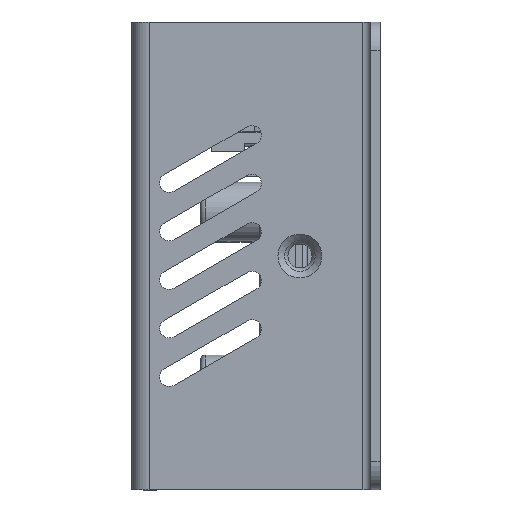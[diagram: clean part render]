
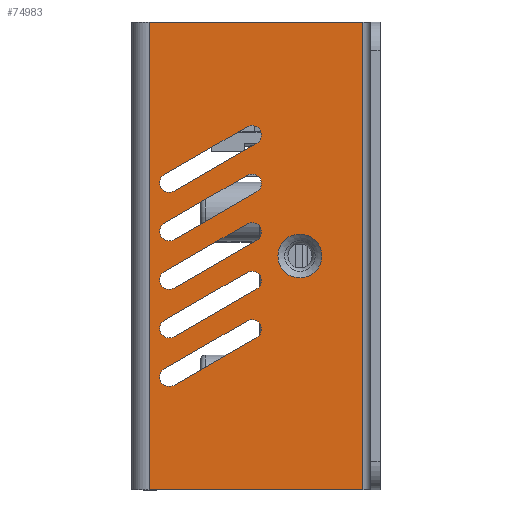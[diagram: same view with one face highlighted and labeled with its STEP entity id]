
A CAD part, left-side view. The second image highlights one B-rep face of the part: STEP entity #74983.
In plain terms, the highlighted planar face has unit normal (-1, 0, 0).
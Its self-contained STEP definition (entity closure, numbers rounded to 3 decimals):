
#3030=FACE_BOUND('',#16309,.T.);
#3031=FACE_BOUND('',#16310,.T.);
#3032=FACE_BOUND('',#16311,.T.);
#3033=FACE_BOUND('',#16312,.T.);
#3034=FACE_BOUND('',#16313,.T.);
#3035=FACE_BOUND('',#16314,.T.);
#5498=PLANE('',#81935);
#12096=FACE_OUTER_BOUND('',#16308,.T.);
#16308=EDGE_LOOP('',(#70807,#70808,#70809,#70810));
#16309=EDGE_LOOP('',(#70811,#70812,#70813,#70814));
#16310=EDGE_LOOP('',(#70815,#70816,#70817,#70818));
#16311=EDGE_LOOP('',(#70819,#70820,#70821,#70822));
#16312=EDGE_LOOP('',(#70823,#70824,#70825,#70826));
#16313=EDGE_LOOP('',(#70827,#70828,#70829,#70830));
#16314=EDGE_LOOP('',(#70831));
#23910=LINE('',#137598,#31512);
#23916=LINE('',#137610,#31518);
#23917=LINE('',#137612,#31519);
#23918=LINE('',#137613,#31520);
#23919=LINE('',#137615,#31521);
#23920=LINE('',#137618,#31522);
#23921=LINE('',#137620,#31523);
#23922=LINE('',#137623,#31524);
#23923=LINE('',#137625,#31525);
#23924=LINE('',#137628,#31526);
#23925=LINE('',#137630,#31527);
#23926=LINE('',#137633,#31528);
#23927=LINE('',#137635,#31529);
#23928=LINE('',#137638,#31530);
#31512=VECTOR('',#101764,1000.);
#31518=VECTOR('',#101772,1000.);
#31519=VECTOR('',#101775,1000.);
#31520=VECTOR('',#101776,1000.);
#31521=VECTOR('',#101777,1000.);
#31522=VECTOR('',#101780,1000.);
#31523=VECTOR('',#101781,1000.);
#31524=VECTOR('',#101784,1000.);
#31525=VECTOR('',#101785,1000.);
#31526=VECTOR('',#101788,1000.);
#31527=VECTOR('',#101789,1000.);
#31528=VECTOR('',#101792,1000.);
#31529=VECTOR('',#101793,1000.);
#31530=VECTOR('',#101796,1000.);
#33442=CIRCLE('',#81877,1.);
#33444=CIRCLE('',#81880,1.);
#33446=CIRCLE('',#81883,1.);
#33448=CIRCLE('',#81886,1.);
#33450=CIRCLE('',#81889,1.);
#33456=CIRCLE('',#81898,2.3);
#33478=CIRCLE('',#81936,1.);
#33479=CIRCLE('',#81937,1.);
#33480=CIRCLE('',#81938,1.);
#33481=CIRCLE('',#81939,1.);
#33482=CIRCLE('',#81940,1.);
#40141=VERTEX_POINT('',#137378);
#40142=VERTEX_POINT('',#137379);
#40145=VERTEX_POINT('',#137387);
#40146=VERTEX_POINT('',#137388);
#40149=VERTEX_POINT('',#137396);
#40150=VERTEX_POINT('',#137397);
#40153=VERTEX_POINT('',#137405);
#40154=VERTEX_POINT('',#137406);
#40157=VERTEX_POINT('',#137414);
#40158=VERTEX_POINT('',#137415);
#40165=VERTEX_POINT('',#137435);
#40225=VERTEX_POINT('',#137594);
#40227=VERTEX_POINT('',#137597);
#40229=VERTEX_POINT('',#137603);
#40232=VERTEX_POINT('',#137608);
#40233=VERTEX_POINT('',#137614);
#40234=VERTEX_POINT('',#137616);
#40235=VERTEX_POINT('',#137619);
#40236=VERTEX_POINT('',#137621);
#40237=VERTEX_POINT('',#137624);
#40238=VERTEX_POINT('',#137626);
#40239=VERTEX_POINT('',#137629);
#40240=VERTEX_POINT('',#137631);
#40241=VERTEX_POINT('',#137634);
#40242=VERTEX_POINT('',#137636);
#50335=EDGE_CURVE('',#40141,#40142,#33442,.T.);
#50339=EDGE_CURVE('',#40145,#40146,#33444,.T.);
#50343=EDGE_CURVE('',#40149,#40150,#33446,.T.);
#50347=EDGE_CURVE('',#40153,#40154,#33448,.T.);
#50351=EDGE_CURVE('',#40157,#40158,#33450,.T.);
#50362=EDGE_CURVE('',#40165,#40165,#33456,.T.);
#50447=EDGE_CURVE('',#40227,#40225,#23910,.T.);
#50453=EDGE_CURVE('',#40229,#40232,#23916,.T.);
#50454=EDGE_CURVE('',#40229,#40225,#23917,.T.);
#50455=EDGE_CURVE('',#40227,#40232,#23918,.T.);
#50456=EDGE_CURVE('',#40142,#40233,#23919,.T.);
#50457=EDGE_CURVE('',#40233,#40234,#33478,.T.);
#50458=EDGE_CURVE('',#40234,#40141,#23920,.T.);
#50459=EDGE_CURVE('',#40146,#40235,#23921,.T.);
#50460=EDGE_CURVE('',#40235,#40236,#33479,.T.);
#50461=EDGE_CURVE('',#40236,#40145,#23922,.T.);
#50462=EDGE_CURVE('',#40150,#40237,#23923,.T.);
#50463=EDGE_CURVE('',#40237,#40238,#33480,.T.);
#50464=EDGE_CURVE('',#40238,#40149,#23924,.T.);
#50465=EDGE_CURVE('',#40154,#40239,#23925,.T.);
#50466=EDGE_CURVE('',#40239,#40240,#33481,.T.);
#50467=EDGE_CURVE('',#40240,#40153,#23926,.T.);
#50468=EDGE_CURVE('',#40158,#40241,#23927,.T.);
#50469=EDGE_CURVE('',#40241,#40242,#33482,.T.);
#50470=EDGE_CURVE('',#40242,#40157,#23928,.T.);
#70807=ORIENTED_EDGE('',*,*,#50454,.F.);
#70808=ORIENTED_EDGE('',*,*,#50453,.T.);
#70809=ORIENTED_EDGE('',*,*,#50455,.F.);
#70810=ORIENTED_EDGE('',*,*,#50447,.T.);
#70811=ORIENTED_EDGE('',*,*,#50456,.T.);
#70812=ORIENTED_EDGE('',*,*,#50457,.T.);
#70813=ORIENTED_EDGE('',*,*,#50458,.T.);
#70814=ORIENTED_EDGE('',*,*,#50335,.T.);
#70815=ORIENTED_EDGE('',*,*,#50459,.T.);
#70816=ORIENTED_EDGE('',*,*,#50460,.T.);
#70817=ORIENTED_EDGE('',*,*,#50461,.T.);
#70818=ORIENTED_EDGE('',*,*,#50339,.T.);
#70819=ORIENTED_EDGE('',*,*,#50462,.T.);
#70820=ORIENTED_EDGE('',*,*,#50463,.T.);
#70821=ORIENTED_EDGE('',*,*,#50464,.T.);
#70822=ORIENTED_EDGE('',*,*,#50343,.T.);
#70823=ORIENTED_EDGE('',*,*,#50465,.T.);
#70824=ORIENTED_EDGE('',*,*,#50466,.T.);
#70825=ORIENTED_EDGE('',*,*,#50467,.T.);
#70826=ORIENTED_EDGE('',*,*,#50347,.T.);
#70827=ORIENTED_EDGE('',*,*,#50468,.T.);
#70828=ORIENTED_EDGE('',*,*,#50469,.T.);
#70829=ORIENTED_EDGE('',*,*,#50470,.T.);
#70830=ORIENTED_EDGE('',*,*,#50351,.T.);
#70831=ORIENTED_EDGE('',*,*,#50362,.F.);
#74983=ADVANCED_FACE('',(#12096,#3030,#3031,#3032,#3033,#3034,#3035),#5498,
 .F.);
#81877=AXIS2_PLACEMENT_3D('',#137380,#101574,#101575);
#81880=AXIS2_PLACEMENT_3D('',#137389,#101582,#101583);
#81883=AXIS2_PLACEMENT_3D('',#137398,#101590,#101591);
#81886=AXIS2_PLACEMENT_3D('',#137407,#101598,#101599);
#81889=AXIS2_PLACEMENT_3D('',#137416,#101606,#101607);
#81898=AXIS2_PLACEMENT_3D('',#137437,#101629,#101630);
#81935=AXIS2_PLACEMENT_3D('',#137611,#101773,#101774);
#81936=AXIS2_PLACEMENT_3D('',#137617,#101778,#101779);
#81937=AXIS2_PLACEMENT_3D('',#137622,#101782,#101783);
#81938=AXIS2_PLACEMENT_3D('',#137627,#101786,#101787);
#81939=AXIS2_PLACEMENT_3D('',#137632,#101790,#101791);
#81940=AXIS2_PLACEMENT_3D('',#137637,#101794,#101795);
#101574=DIRECTION('center_axis',(1.,0.,0.));
#101575=DIRECTION('ref_axis',(0.,1.,0.));
#101582=DIRECTION('center_axis',(1.,0.,0.));
#101583=DIRECTION('ref_axis',(0.,1.,0.));
#101590=DIRECTION('center_axis',(1.,0.,0.));
#101591=DIRECTION('ref_axis',(0.,1.,0.));
#101598=DIRECTION('center_axis',(1.,0.,0.));
#101599=DIRECTION('ref_axis',(0.,1.,0.));
#101606=DIRECTION('center_axis',(1.,0.,0.));
#101607=DIRECTION('ref_axis',(0.,1.,0.));
#101629=DIRECTION('center_axis',(-1.,0.,0.));
#101630=DIRECTION('ref_axis',(0.,0.,1.));
#101764=DIRECTION('',(0.,-1.,0.));
#101772=DIRECTION('',(0.,1.,0.));
#101773=DIRECTION('center_axis',(1.,0.,0.));
#101774=DIRECTION('ref_axis',(0.,1.,0.));
#101775=DIRECTION('',(0.,0.,-1.));
#101776=DIRECTION('',(0.,0.,1.));
#101777=DIRECTION('',(0.,-0.866,0.5));
#101778=DIRECTION('center_axis',(1.,0.,0.));
#101779=DIRECTION('ref_axis',(0.,1.,0.));
#101780=DIRECTION('',(0.,0.866,-0.5));
#101781=DIRECTION('',(0.,-0.866,0.5));
#101782=DIRECTION('center_axis',(1.,0.,0.));
#101783=DIRECTION('ref_axis',(0.,1.,0.));
#101784=DIRECTION('',(0.,0.866,-0.5));
#101785=DIRECTION('',(0.,-0.866,0.5));
#101786=DIRECTION('center_axis',(1.,0.,0.));
#101787=DIRECTION('ref_axis',(0.,1.,0.));
#101788=DIRECTION('',(0.,0.866,-0.5));
#101789=DIRECTION('',(0.,-0.866,0.5));
#101790=DIRECTION('center_axis',(1.,0.,0.));
#101791=DIRECTION('ref_axis',(0.,1.,0.));
#101792=DIRECTION('',(0.,0.866,-0.5));
#101793=DIRECTION('',(0.,-0.866,0.5));
#101794=DIRECTION('center_axis',(1.,0.,0.));
#101795=DIRECTION('ref_axis',(0.,1.,0.));
#101796=DIRECTION('',(0.,0.866,-0.5));
#137378=CARTESIAN_POINT('',(-30.3,-4.42,-3.366));
#137379=CARTESIAN_POINT('',(-30.3,-3.42,-1.634));
#137380=CARTESIAN_POINT('Origin',(-30.3,-3.92,-2.5));
#137387=CARTESIAN_POINT('',(-30.3,-4.42,1.719));
#137388=CARTESIAN_POINT('',(-30.3,-3.42,3.451));
#137389=CARTESIAN_POINT('Origin',(-30.3,-3.92,2.585));
#137396=CARTESIAN_POINT('',(-30.3,-4.42,-13.536));
#137397=CARTESIAN_POINT('',(-30.3,-3.42,-11.804));
#137398=CARTESIAN_POINT('Origin',(-30.3,-3.92,-12.67));
#137405=CARTESIAN_POINT('',(-30.3,-4.42,-8.451));
#137406=CARTESIAN_POINT('',(-30.3,-3.42,-6.719));
#137407=CARTESIAN_POINT('Origin',(-30.3,-3.92,-7.585));
#137414=CARTESIAN_POINT('',(-30.3,-4.42,6.804));
#137415=CARTESIAN_POINT('',(-30.3,-3.42,8.536));
#137416=CARTESIAN_POINT('Origin',(-30.3,-3.92,7.67));
#137435=CARTESIAN_POINT('',(-30.3,-17.6,-2.3));
#137437=CARTESIAN_POINT('Origin',(-30.3,-17.6,0.));
#137594=CARTESIAN_POINT('',(-30.3,-24.2,-24.5));
#137597=CARTESIAN_POINT('',(-30.3,-1.8,-24.5));
#137598=CARTESIAN_POINT('',(-30.3,0.,-24.5));
#137603=CARTESIAN_POINT('',(-30.3,-24.2,24.5));
#137608=CARTESIAN_POINT('',(-30.3,-1.8,24.5));
#137610=CARTESIAN_POINT('',(-30.3,0.,24.5));
#137611=CARTESIAN_POINT('Origin',(-30.3,0.,0.));
#137612=CARTESIAN_POINT('',(-30.3,-24.2,24.5));
#137613=CARTESIAN_POINT('',(-30.3,-1.8,24.5));
#137614=CARTESIAN_POINT('',(-30.3,-12.08,3.366));
#137615=CARTESIAN_POINT('',(-30.3,-1.562,-2.706));
#137616=CARTESIAN_POINT('',(-30.3,-13.08,1.634));
#137617=CARTESIAN_POINT('Origin',(-30.3,-12.58,2.5));
#137618=CARTESIAN_POINT('',(-30.3,-2.562,-4.438));
#137619=CARTESIAN_POINT('',(-30.3,-12.08,8.451));
#137620=CARTESIAN_POINT('',(-30.3,0.639,1.107));
#137621=CARTESIAN_POINT('',(-30.3,-13.08,6.719));
#137622=CARTESIAN_POINT('Origin',(-30.3,-12.58,7.585));
#137623=CARTESIAN_POINT('',(-30.3,-0.361,-0.625));
#137624=CARTESIAN_POINT('',(-30.3,-12.08,-6.804));
#137625=CARTESIAN_POINT('',(-30.3,-5.966,-10.334));
#137626=CARTESIAN_POINT('',(-30.3,-13.08,-8.536));
#137627=CARTESIAN_POINT('Origin',(-30.3,-12.58,-7.67));
#137628=CARTESIAN_POINT('',(-30.3,-6.966,-12.066));
#137629=CARTESIAN_POINT('',(-30.3,-12.08,-1.719));
#137630=CARTESIAN_POINT('',(-30.3,-3.764,-6.52));
#137631=CARTESIAN_POINT('',(-30.3,-13.08,-3.451));
#137632=CARTESIAN_POINT('Origin',(-30.3,-12.58,-2.585));
#137633=CARTESIAN_POINT('',(-30.3,-4.764,-8.252));
#137634=CARTESIAN_POINT('',(-30.3,-12.08,13.536));
#137635=CARTESIAN_POINT('',(-30.3,2.841,4.921));
#137636=CARTESIAN_POINT('',(-30.3,-13.08,11.804));
#137637=CARTESIAN_POINT('Origin',(-30.3,-12.58,12.67));
#137638=CARTESIAN_POINT('',(-30.3,1.841,3.189));
